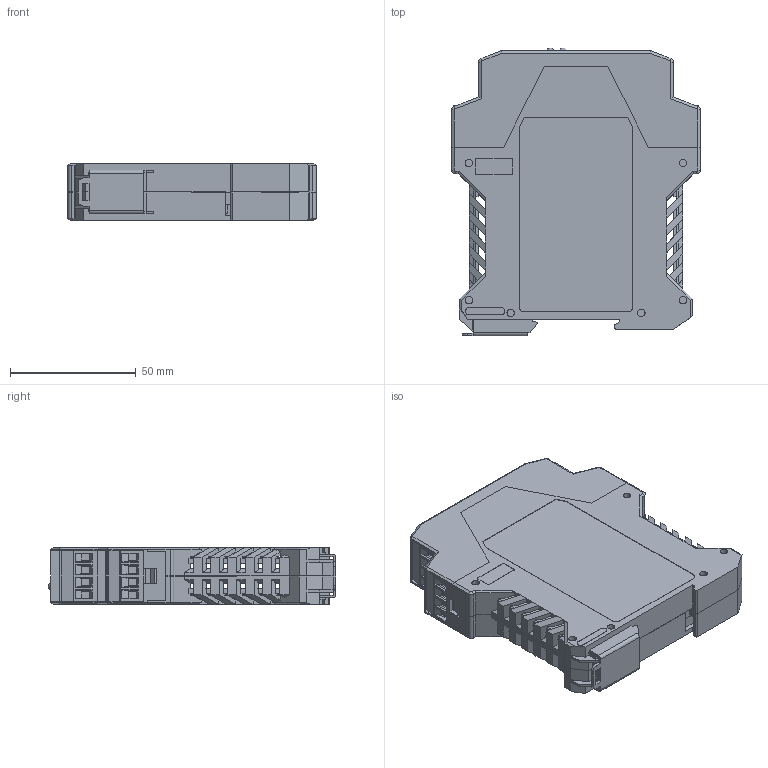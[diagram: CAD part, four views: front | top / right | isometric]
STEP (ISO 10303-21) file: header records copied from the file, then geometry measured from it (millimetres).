
FILE_DESCRIPTION(('FreeCAD Model'),'2;1');
FILE_NAME('Open CASCADE Shape Model','2021-09-23T14:54:26',('Author'),( ''),'Open CASCADE STEP processor 7.5','FreeCAD','Unknown');
FILE_SCHEMA(('CONFIG_CONTROL_DESIGN','SHAPE_APPEARANCE_LAYER_MIM'));
Length unit declared in the file: millimetre
Products named in the file (9): Safe_Two_Hand; LED_Gruen_dummy; E20-088-10_Gehäuse Unterteil; ME_Verriegelungshaken_H.Select__00446697; ME_22.5_UTL_H_H.Select__00392903; ME_22.5_UTR_H_H.Select__00393036; Fussriegel_17.5_L30_H.Select__00315466; MSTBT_2.5_4_ST_H.Select; Safe_Two_Hand_front
Assembly tree (13 placements, depth 3):
  Safe_Two_Hand
    LED_Gruen_dummy  x2
    E20-088-10_Gehäuse Unterteil
      ME_Verriegelungshaken_H.Select__00446697  x2
      ME_22.5_UTL_H_H.Select__00392903
      ME_22.5_UTR_H_H.Select__00393036
      Fussriegel_17.5_L30_H.Select__00315466
    MSTBT_2.5_4_ST_H.Select  x4
    Safe_Two_Hand_front
Bounding box: 99 x 114.6 x 22.6 mm (x, y, z)
Volume: 60190.3 mm3; surface area: 68539.2 mm2
Topology: 12 solids, 12 shells, 3011 faces, 8424 edges, 5556 vertices
Faces by surface type: plane 2125, bspline 664, cylinder 208, cone 12, sphere 2
Full cylindrical faces by diameter (mm): 1.4 x16, 2 x6, 2.8 x12, 3 x16, 3.783 x16, 4 x16
Entity records: 177917 total; most frequent: CARTESIAN_POINT 38944, DIRECTION 20241, LINE 15999, VECTOR 15999, ORIENTED_EDGE 13704, PCURVE 13704, DEFINITIONAL_REPRESENTATION 13704, EDGE_CURVE 6852
